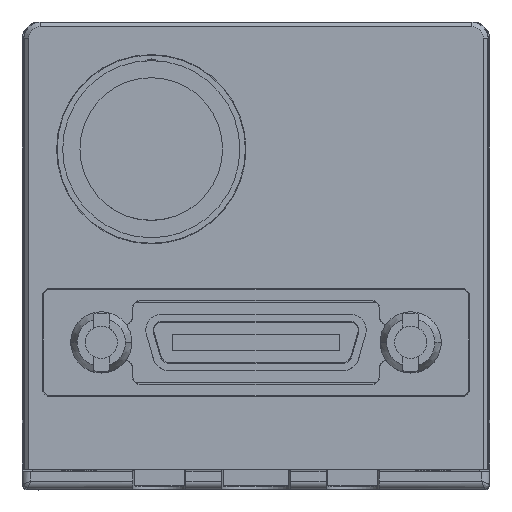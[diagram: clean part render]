
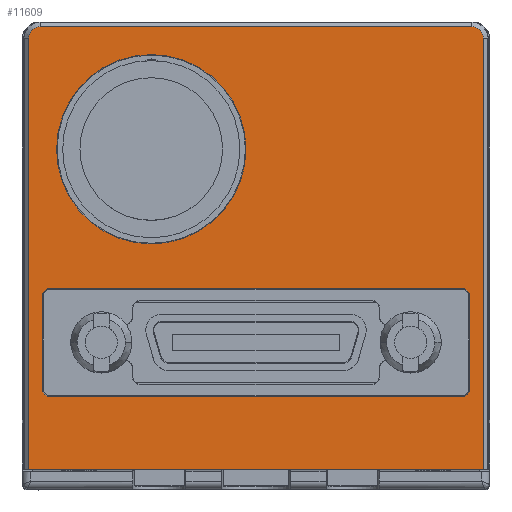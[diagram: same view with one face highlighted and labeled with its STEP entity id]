
A CAD part, top view. The second image highlights one B-rep face of the part: STEP entity #11609.
In plain terms, the highlighted planar face has unit normal (0, 0, 1).
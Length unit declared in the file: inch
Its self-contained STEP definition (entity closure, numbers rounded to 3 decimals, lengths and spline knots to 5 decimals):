
#8830=CARTESIAN_POINT('',(-0.52756,0.52756,
0.));
#8831=DIRECTION('',(0.,0.,-1.));
#8832=DIRECTION('',(-1.,0.,0.));
#8833=AXIS2_PLACEMENT_3D('',#8830,#8831,#8832);
#8835=CARTESIAN_POINT('',(0.52756,0.52756,
0.));
#8836=DIRECTION('',(0.,0.,-1.));
#8837=DIRECTION('',(0.,1.,0.));
#8838=AXIS2_PLACEMENT_3D('',#8835,#8836,#8837);
#8840=DIRECTION('',(1.,0.,0.));
#8841=VECTOR('',#8840,1.01969);
#8842=CARTESIAN_POINT('',(-0.50984,-0.34843,0.));
#8843=LINE('',#8842,#8841);
#8844=DIRECTION('',(0.707,0.707,0.));
#8845=VECTOR('',#8844,0.0167);
#8846=CARTESIAN_POINT('',(0.50984,-0.34843,0.));
#8847=LINE('',#8846,#8845);
#8848=DIRECTION('',(0.,1.,0.));
#8849=VECTOR('',#8848,0.24016);
#8850=CARTESIAN_POINT('',(0.52165,-0.33661,0.));
#8851=LINE('',#8850,#8849);
#8852=DIRECTION('',(-0.707,0.707,0.));
#8853=VECTOR('',#8852,0.0167);
#8854=CARTESIAN_POINT('',(0.52165,-0.09646,0.));
#8855=LINE('',#8854,#8853);
#8856=DIRECTION('',(-1.,0.,0.));
#8857=VECTOR('',#8856,1.01969);
#8858=CARTESIAN_POINT('',(0.50984,-0.08465,0.));
#8859=LINE('',#8858,#8857);
#8860=DIRECTION('',(-0.707,-0.707,0.));
#8861=VECTOR('',#8860,0.0167);
#8862=CARTESIAN_POINT('',(-0.50984,-0.08465,0.));
#8863=LINE('',#8862,#8861);
#8864=DIRECTION('',(0.,-1.,0.));
#8865=VECTOR('',#8864,0.24016);
#8866=CARTESIAN_POINT('',(-0.52165,-0.09646,0.));
#8867=LINE('',#8866,#8865);
#8868=DIRECTION('',(0.707,-0.707,0.));
#8869=VECTOR('',#8868,0.0167);
#8870=CARTESIAN_POINT('',(-0.52165,-0.33661,0.));
#8871=LINE('',#8870,#8869);
#8872=CARTESIAN_POINT('',(-0.25591,0.25591,
0.));
#8873=DIRECTION('',(0.,0.,1.));
#8874=DIRECTION('',(1.,0.,0.));
#8875=AXIS2_PLACEMENT_3D('',#8872,#8873,#8874);
#8877=CARTESIAN_POINT('',(-0.25591,0.25591,
0.));
#8878=DIRECTION('',(0.,0.,1.));
#8879=DIRECTION('',(-1.,0.,0.));
#8880=AXIS2_PLACEMENT_3D('',#8877,#8878,#8879);
#8882=DIRECTION('',(1.,0.,0.));
#8883=VECTOR('',#8882,1.11024);
#8884=CARTESIAN_POINT('',(-0.55512,-0.52752,
0.));
#8885=LINE('',#8884,#8883);
#9066=DIRECTION('',(0.,1.,0.));
#9067=VECTOR('',#9066,1.05507);
#9068=CARTESIAN_POINT('',(0.55512,-0.52752,
0.));
#9069=LINE('',#9068,#9067);
#9078=DIRECTION('',(-1.,0.,0.));
#9079=VECTOR('',#9078,1.05512);
#9080=CARTESIAN_POINT('',(0.52756,0.55512,
0.));
#9081=LINE('',#9080,#9079);
#9090=DIRECTION('',(0.,-1.,0.));
#9091=VECTOR('',#9090,1.05507);
#9092=CARTESIAN_POINT('',(-0.55512,0.52756,
0.));
#9093=LINE('',#9092,#9091);
#10999=CARTESIAN_POINT('',(-0.55512,-0.52752,
0.));
#11000=CARTESIAN_POINT('',(0.55512,-0.52752,
0.));
#11001=VERTEX_POINT('',#10999);
#11002=VERTEX_POINT('',#11000);
#11003=CARTESIAN_POINT('',(-0.55512,0.52756,
0.));
#11004=VERTEX_POINT('',#11003);
#11005=CARTESIAN_POINT('',(-0.52756,0.55512,
0.));
#11006=VERTEX_POINT('',#11005);
#11007=CARTESIAN_POINT('',(0.52756,0.55512,
0.));
#11008=VERTEX_POINT('',#11007);
#11009=CARTESIAN_POINT('',(0.55512,0.52756,
0.));
#11010=VERTEX_POINT('',#11009);
#11011=CARTESIAN_POINT('',(-0.50984,-0.34843,0.));
#11012=CARTESIAN_POINT('',(0.50984,-0.34843,0.));
#11013=VERTEX_POINT('',#11011);
#11014=VERTEX_POINT('',#11012);
#11015=CARTESIAN_POINT('',(0.52165,-0.33661,0.));
#11016=VERTEX_POINT('',#11015);
#11017=CARTESIAN_POINT('',(0.52165,-0.09646,0.));
#11018=VERTEX_POINT('',#11017);
#11019=CARTESIAN_POINT('',(0.50984,-0.08465,0.));
#11020=VERTEX_POINT('',#11019);
#11021=CARTESIAN_POINT('',(-0.50984,-0.08465,0.));
#11022=VERTEX_POINT('',#11021);
#11023=CARTESIAN_POINT('',(-0.52165,-0.09646,0.));
#11024=VERTEX_POINT('',#11023);
#11025=CARTESIAN_POINT('',(-0.52165,-0.33661,0.));
#11026=VERTEX_POINT('',#11025);
#11027=CARTESIAN_POINT('',(-0.02456,0.25591,
0.));
#11028=CARTESIAN_POINT('',(-0.48725,0.25591,
0.));
#11029=VERTEX_POINT('',#11027);
#11030=VERTEX_POINT('',#11028);
#11566=CARTESIAN_POINT('',(0.,0.,0.));
#11567=DIRECTION('',(0.,0.,1.));
#11568=DIRECTION('',(1.,0.,0.));
#11569=AXIS2_PLACEMENT_3D('',#11566,#11567,#11568);
#11570=PLANE('',#11569);
#11572=ORIENTED_EDGE('',*,*,#11571,.F.);
#11574=ORIENTED_EDGE('',*,*,#11573,.F.);
#11576=ORIENTED_EDGE('',*,*,#11575,.T.);
#11578=ORIENTED_EDGE('',*,*,#11577,.F.);
#11580=ORIENTED_EDGE('',*,*,#11579,.T.);
#11582=ORIENTED_EDGE('',*,*,#11581,.F.);
#11583=EDGE_LOOP('',(#11572,#11574,#11576,#11578,#11580,#11582));
#11584=FACE_OUTER_BOUND('',#11583,.F.);
#11586=ORIENTED_EDGE('',*,*,#11585,.T.);
#11588=ORIENTED_EDGE('',*,*,#11587,.T.);
#11590=ORIENTED_EDGE('',*,*,#11589,.T.);
#11592=ORIENTED_EDGE('',*,*,#11591,.T.);
#11594=ORIENTED_EDGE('',*,*,#11593,.T.);
#11596=ORIENTED_EDGE('',*,*,#11595,.T.);
#11598=ORIENTED_EDGE('',*,*,#11597,.T.);
#11600=ORIENTED_EDGE('',*,*,#11599,.T.);
#11601=EDGE_LOOP('',(#11586,#11588,#11590,#11592,#11594,#11596,#11598,#11600));
#11602=FACE_BOUND('',#11601,.F.);
#11604=ORIENTED_EDGE('',*,*,#11603,.T.);
#11606=ORIENTED_EDGE('',*,*,#11605,.T.);
#11607=EDGE_LOOP('',(#11604,#11606));
#11608=FACE_BOUND('',#11607,.F.);
#11609=ADVANCED_FACE('',(#11584,#11602,#11608),#11570,.T.);
#8834=CIRCLE('',#8833,0.02756);
#8839=CIRCLE('',#8838,0.02756);
#8876=CIRCLE('',#8875,0.23135);
#8881=CIRCLE('',#8880,0.23135);
#11571=EDGE_CURVE('',#11001,#11002,#8885,.T.);
#11573=EDGE_CURVE('',#11004,#11001,#9093,.T.);
#11575=EDGE_CURVE('',#11004,#11006,#8834,.T.);
#11577=EDGE_CURVE('',#11008,#11006,#9081,.T.);
#11579=EDGE_CURVE('',#11008,#11010,#8839,.T.);
#11581=EDGE_CURVE('',#11002,#11010,#9069,.T.);
#11585=EDGE_CURVE('',#11013,#11014,#8843,.T.);
#11587=EDGE_CURVE('',#11014,#11016,#8847,.T.);
#11589=EDGE_CURVE('',#11016,#11018,#8851,.T.);
#11591=EDGE_CURVE('',#11018,#11020,#8855,.T.);
#11593=EDGE_CURVE('',#11020,#11022,#8859,.T.);
#11595=EDGE_CURVE('',#11022,#11024,#8863,.T.);
#11597=EDGE_CURVE('',#11024,#11026,#8867,.T.);
#11599=EDGE_CURVE('',#11026,#11013,#8871,.T.);
#11603=EDGE_CURVE('',#11029,#11030,#8876,.T.);
#11605=EDGE_CURVE('',#11030,#11029,#8881,.T.);
